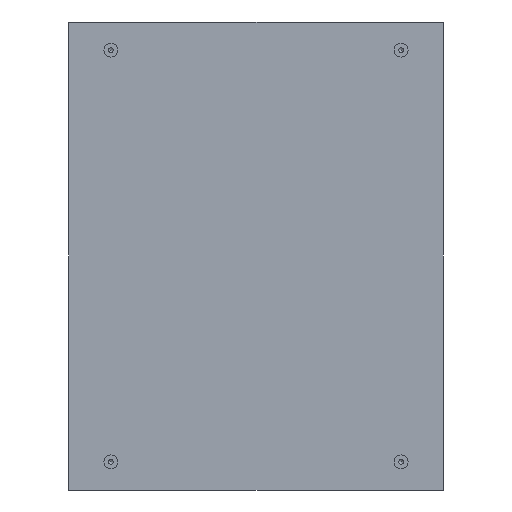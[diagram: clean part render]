
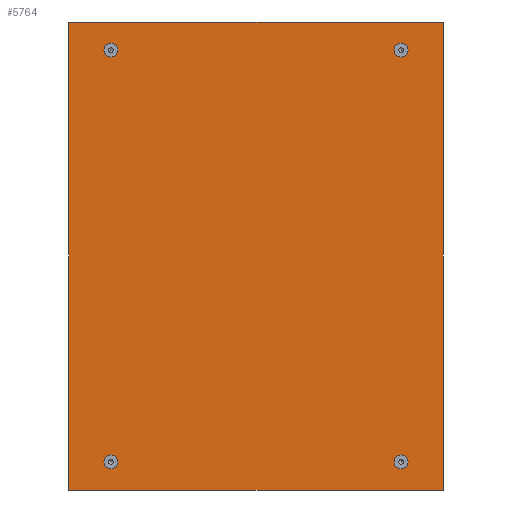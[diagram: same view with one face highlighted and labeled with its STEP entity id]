
A CAD part, left-side view. The second image highlights one B-rep face of the part: STEP entity #5764.
In plain terms, the highlighted planar face has unit normal (-1, 0, 0).
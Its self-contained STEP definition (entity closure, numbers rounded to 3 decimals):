
#471=CIRCLE('',#7638,5.125);
#473=CIRCLE('',#7641,5.125);
#475=CIRCLE('',#7644,5.125);
#476=CIRCLE('',#7674,5.125);
#1709=ORIENTED_EDGE('',*,*,#2681,.T.);
#1710=ORIENTED_EDGE('',*,*,#2682,.T.);
#1711=ORIENTED_EDGE('',*,*,#2683,.T.);
#1712=ORIENTED_EDGE('',*,*,#2684,.T.);
#1713=ORIENTED_EDGE('',*,*,#2553,.F.);
#1714=ORIENTED_EDGE('',*,*,#2555,.F.);
#1715=ORIENTED_EDGE('',*,*,#2557,.F.);
#1716=ORIENTED_EDGE('',*,*,#2685,.F.);
#2553=EDGE_CURVE('',#3155,#3155,#471,.T.);
#2555=EDGE_CURVE('',#3157,#3157,#473,.T.);
#2557=EDGE_CURVE('',#3159,#3159,#475,.T.);
#2681=EDGE_CURVE('',#3252,#3253,#3810,.T.);
#2682=EDGE_CURVE('',#3253,#3254,#3811,.T.);
#2683=EDGE_CURVE('',#3254,#3255,#3812,.T.);
#2684=EDGE_CURVE('',#3255,#3252,#3813,.T.);
#2685=EDGE_CURVE('',#3256,#3256,#476,.T.);
#3155=VERTEX_POINT('',#10604);
#3157=VERTEX_POINT('',#10609);
#3159=VERTEX_POINT('',#10614);
#3252=VERTEX_POINT('',#10860);
#3253=VERTEX_POINT('',#10861);
#3254=VERTEX_POINT('',#10863);
#3255=VERTEX_POINT('',#10865);
#3256=VERTEX_POINT('',#10868);
#3810=LINE('',#10859,#4362);
#3811=LINE('',#10862,#4363);
#3812=LINE('',#10864,#4364);
#3813=LINE('',#10866,#4365);
#4362=VECTOR('',#9117,1000.);
#4363=VECTOR('',#9118,1000.);
#4364=VECTOR('',#9119,1000.);
#4365=VECTOR('',#9120,1000.);
#4746=EDGE_LOOP('',(#1709,#1710,#1711,#1712));
#4747=EDGE_LOOP('',(#1713));
#4748=EDGE_LOOP('',(#1714));
#4749=EDGE_LOOP('',(#1715));
#4750=EDGE_LOOP('',(#1716));
#5168=FACE_BOUND('',#4746,.T.);
#5169=FACE_BOUND('',#4747,.T.);
#5170=FACE_BOUND('',#4748,.T.);
#5171=FACE_BOUND('',#4749,.T.);
#5172=FACE_BOUND('',#4750,.T.);
#5459=PLANE('',#7673);
#5764=ADVANCED_FACE('',(#5168,#5169,#5170,#5171,#5172),#5459,.T.);
#7638=AXIS2_PLACEMENT_3D('',#10603,#8922,#8923);
#7641=AXIS2_PLACEMENT_3D('',#10608,#8928,#8929);
#7644=AXIS2_PLACEMENT_3D('',#10613,#8934,#8935);
#7673=AXIS2_PLACEMENT_3D('',#10858,#9115,#9116);
#7674=AXIS2_PLACEMENT_3D('',#10867,#9121,#9122);
#8922=DIRECTION('',(-1.,0.,0.));
#8923=DIRECTION('',(0.,-1.,0.));
#8928=DIRECTION('',(-1.,0.,0.));
#8929=DIRECTION('',(0.,-1.,0.));
#8934=DIRECTION('',(-1.,0.,0.));
#8935=DIRECTION('',(0.,-1.,0.));
#9115=DIRECTION('',(-1.,0.,0.));
#9116=DIRECTION('',(0.,-1.,0.));
#9117=DIRECTION('',(0.,0.,1.));
#9118=DIRECTION('',(0.,1.,0.));
#9119=DIRECTION('',(0.,0.,-1.));
#9120=DIRECTION('',(0.,-1.,0.));
#9121=DIRECTION('',(-1.,0.,0.));
#9122=DIRECTION('',(0.,-1.,0.));
#10603=CARTESIAN_POINT('',(-1.2,155.,-220.));
#10604=CARTESIAN_POINT('',(-1.2,149.875,-220.));
#10608=CARTESIAN_POINT('',(-1.2,155.,220.));
#10609=CARTESIAN_POINT('',(-1.2,149.875,220.));
#10613=CARTESIAN_POINT('',(-1.2,-155.,-220.));
#10614=CARTESIAN_POINT('',(-1.2,-160.125,-220.));
#10858=CARTESIAN_POINT('',(-1.2,0.,0.));
#10859=CARTESIAN_POINT('',(-1.2,-200.,0.));
#10860=CARTESIAN_POINT('',(-1.2,-200.,-250.));
#10861=CARTESIAN_POINT('',(-1.2,-200.,250.));
#10862=CARTESIAN_POINT('',(-1.2,0.,250.));
#10863=CARTESIAN_POINT('',(-1.2,200.,250.));
#10864=CARTESIAN_POINT('',(-1.2,200.,0.));
#10865=CARTESIAN_POINT('',(-1.2,200.,-250.));
#10866=CARTESIAN_POINT('',(-1.2,0.,-250.));
#10867=CARTESIAN_POINT('',(-1.2,-155.,220.));
#10868=CARTESIAN_POINT('',(-1.2,-160.125,220.));
